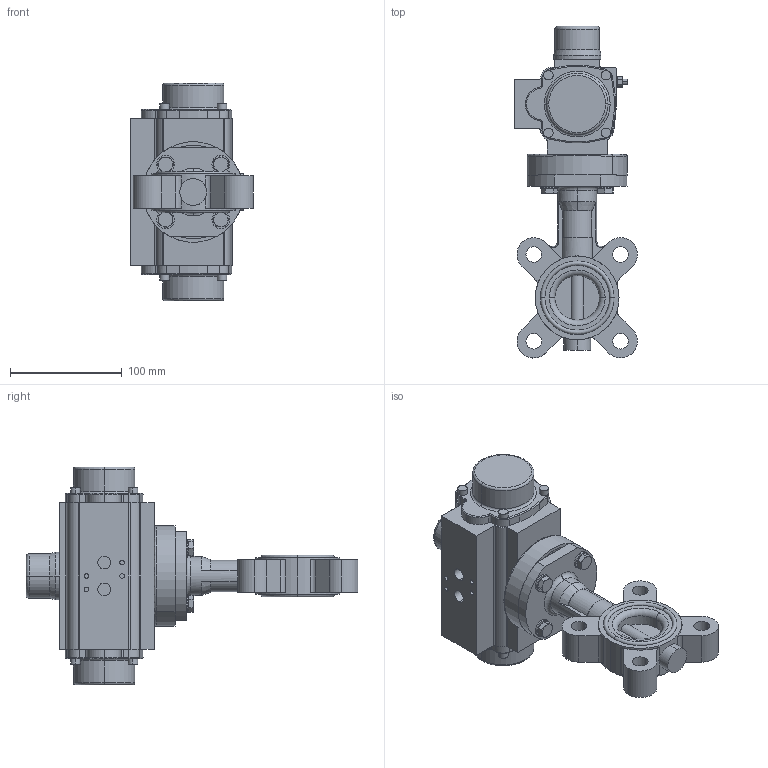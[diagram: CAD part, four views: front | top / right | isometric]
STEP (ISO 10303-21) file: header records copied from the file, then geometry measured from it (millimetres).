
FILE_DESCRIPTION (( 'STEP AP214' ), '1' );
FILE_NAME ('67348.step', '2020-10-23T12:38:17', ( '' ), ( '' ), 'SwSTEP 2.0', 'SolidWorks 2019', '' );
FILE_SCHEMA (( 'AUTOMOTIVE_DESIGN' ));
Length unit declared in the file: millimetre
Products named in the file (10): Flanschadapter F07-F05; SR0040-V14_02; 6kt-Schr DIN 933_M8x30; U-Scheibe DIN 125 A_M8; Zyl-Schr In-6kt DIN 912_M6x16; TL20-0040_M01; 67348; 67335_15x15x2 - L=18; Achtkantreduktion 14-11 mm; 6kt-Mu DIN 934_M8
Assembly tree (21 placements, depth 2):
  67348
    TL20-0040_M01
    SR0040-V14_02
    U-Scheibe DIN 125 A_M8  x4
    6kt-Schr DIN 933_M8x30  x4
    Achtkantreduktion 14-11 mm
    Flanschadapter F07-F05
    67335_15x15x2 - L=18
    Zyl-Schr In-6kt DIN 912_M6x16  x4
    6kt-Mu DIN 934_M8  x4
Bounding box: 109.83 x 297.37 x 195 mm (x, y, z)
Volume: 1437620.8 mm3; surface area: 186599.8 mm2
Topology: 22 solids, 22 shells, 947 faces, 2319 edges, 1463 vertices
Faces by surface type: plane 440, cylinder 329, cone 108, torus 58, bspline 12
Entity records: 25344 total; most frequent: CARTESIAN_POINT 5108, DIRECTION 3968, ORIENTED_EDGE 3602, EDGE_CURVE 1801, AXIS2_PLACEMENT_3D 1532, VERTEX_POINT 1160, LINE 904, VECTOR 904
